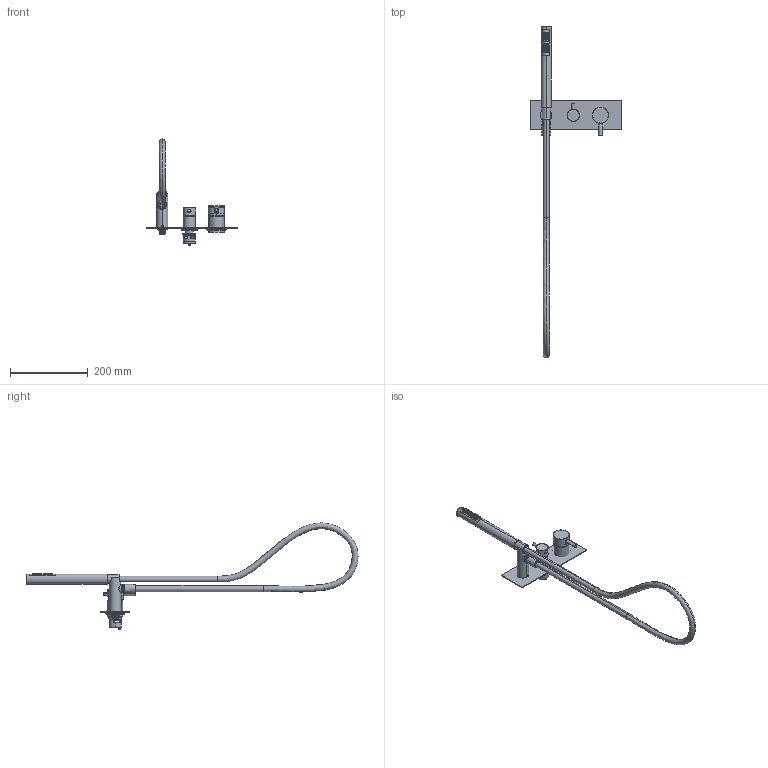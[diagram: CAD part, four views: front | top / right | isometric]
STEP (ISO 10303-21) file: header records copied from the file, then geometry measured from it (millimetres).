
FILE_DESCRIPTION((''),'2;1');
FILE_NAME('12529V3_SW0001','2023-06-01T11:51:37',('volponeff'),(''),'CREO PARAMETRIC BY PTC INC, 2022014','CREO PARAMETRIC BY PTC INC, 2022014','');
FILE_SCHEMA(('CONFIG_CONTROL_DESIGN'));
Length unit declared in the file: millimetre
Products named in the file (1): 12529V3_SW0001
Bounding box: 235 x 856.73 x 273.97 mm (x, y, z)
Surface area: 171337.9 mm2 (no closed solid volume)
Topology: 0 solids, 70 shells, 313 faces, 851 edges, 594 vertices
Faces by surface type: cylinder 193, plane 48, cone 30, torus 23, bspline 17, sphere 2
Entity records: 14736 total; most frequent: CARTESIAN_POINT 7417, DIRECTION 1447, ORIENTED_EDGE 1395, EDGE_CURVE 849, VERTEX_POINT 594, AXIS2_PLACEMENT_3D 574, EDGE_LOOP 313, FACE_OUTER_BOUND 313
